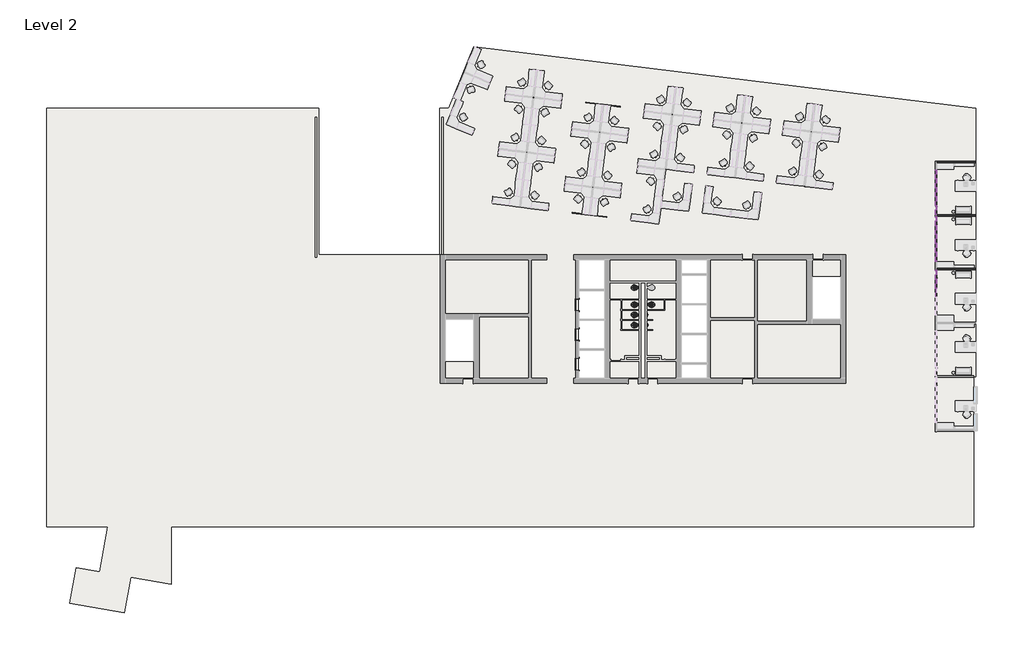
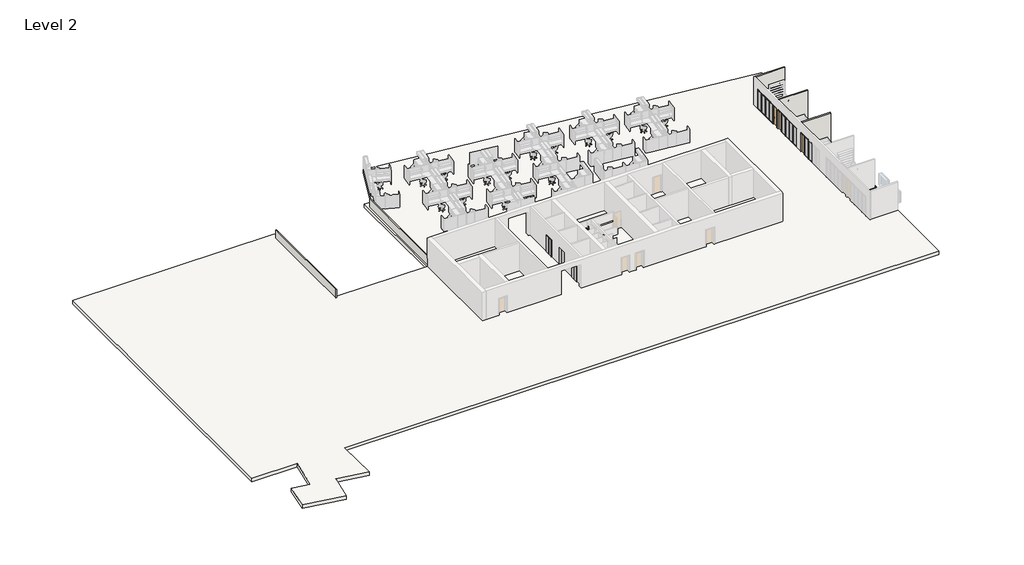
# One storey, part 3 of 6: 64 members, 23 plates, 7 flow terminals, 7 walls, 3 doors, 3 proxies, 1 slab.
"""IFC4 building model written with IfcOpenShell, lengths in millimetres."""

from ifc_helpers import new_model, si_unit, frame, origin, place, context, project, spatial, polyline, outline, extrude, transform, mapped, element, save
from components import proxy_7fed659c, curtain_wall_sgl_glass_curtain_wall_sgl_glass_683140d0, curtain_wall_sgl_glass_curtain_wall_sgl_glass_5192a5a3, flow_terminal_184afdea, flow_terminal_4365df9b, urinal_wall_3d_urinal_wall_3d_30f61b9e, member_9597caa3, member_b2bde9e6, member_ee409385, member_7ffbafd8, member_47ea2df9, member_5507c937, member_0e55f5ff, member_6d48148e, member_7899ddbe, system_panel_glazed_8093bbd9, system_panel_glazed_f9de1280, system_panel_glazed_6896c6c0, system_panel_glazed_50fd444c

model = new_model("IFC4")

# Units and contexts
model_context = context("Model", 3, world=origin())
ifc_project = project(units=[si_unit("LENGTHUNIT", "METRE", prefix="MILLI")], contexts=[model_context])

# Site, building, storey
site = spatial("IfcSite", under=ifc_project)
building = spatial("IfcBuilding", under=site)
storey = spatial("IfcBuildingStorey", under=building, Name="Level 2", Elevation=3657.6)

# Proxies
placement = place(None, origin())
proxy_shape = proxy_7fed659c(model_context)
element("IfcBuildingElementProxy", 1, Name="Elevator%20Door-Center[1] : 42\" x 84\"", ObjectType="Elevator%20Door-Center[1] : 42\" x 84\"", at=placement, inside=storey, context=model_context, shape_type="MappedRepresentation", body=[
    mapped(proxy_shape, transform((-20852.1285069, -7663.0747049, 3657.6), x_axis=(0.0, 1.0, 0.0), y_axis=(-1.0, 0.0, 0.0), z_axis=(0.0, 0.0, 1.0))),
])
element("IfcBuildingElementProxy", 2, Name="Elevator%20Door-Center[1] : 42\" x 84\"", ObjectType="Elevator%20Door-Center[1] : 42\" x 84\"", at=placement, inside=storey, context=model_context, shape_type="MappedRepresentation", body=[
    mapped(proxy_shape, transform((-20852.1285069, -10330.0747049, 3657.6), x_axis=(0.0, 1.0, 0.0), y_axis=(-1.0, 0.0, 0.0), z_axis=(0.0, 0.0, 1.0))),
])
element("IfcBuildingElementProxy", 3, Name="Elevator%20Door-Center[1] : 42\" x 84\"", ObjectType="Elevator%20Door-Center[1] : 42\" x 84\"", at=placement, inside=storey, context=model_context, shape_type="MappedRepresentation", body=[
    mapped(proxy_shape, transform((-20852.1285069, -12997.0747049, 3657.6), x_axis=(0.0, 1.0, 0.0), y_axis=(-1.0, 0.0, 0.0), z_axis=(0.0, 0.0, 1.0))),
])

# Doors
curtain_wall_sgl_glass_curtain_wall_sgl_glass_shape = curtain_wall_sgl_glass_curtain_wall_sgl_glass_683140d0(model_context)
element("IfcDoor", 4, ObjectType="Curtain Wall Sgl Glass : Curtain Wall Sgl Glass", at=placement, inside=storey, context=model_context, shape_type="MappedRepresentation", body=[
    mapped(curtain_wall_sgl_glass_curtain_wall_sgl_glass_shape, transform((11449.2054088, -211.6299475, 3657.6), x_axis=(0.0, 1.0, 0.0), y_axis=(-1.0, 0.0, 0.0), z_axis=(0.0, 0.0, 1.0))),
])
element("IfcDoor", 5, ObjectType="Curtain Wall Sgl Glass : Curtain Wall Sgl Glass", at=placement, inside=storey, context=model_context, shape_type="MappedRepresentation", body=[
    mapped(curtain_wall_sgl_glass_curtain_wall_sgl_glass_shape, transform((11449.2054088, -5046.1342481, 3657.6), x_axis=(0.0, 1.0, 0.0), y_axis=(-1.0, 0.0, 0.0), z_axis=(0.0, 0.0, 1.0))),
])
curtain_wall_sgl_glass_curtain_wall_sgl_glass_2_shape = curtain_wall_sgl_glass_curtain_wall_sgl_glass_5192a5a3(model_context)
element("IfcDoor", 6, ObjectType="Curtain Wall Sgl Glass : Curtain Wall Sgl Glass", at=placement, inside=storey, context=model_context, shape_type="MappedRepresentation", body=[
    mapped(curtain_wall_sgl_glass_curtain_wall_sgl_glass_2_shape, transform((11449.2054088, 794.2100525, 3657.6), x_axis=(0.0, -1.0, 0.0), y_axis=(1.0, 0.0, 0.0), z_axis=(0.0, 0.0, 1.0))),
])

# Flow terminals
flow_terminal_shape = flow_terminal_184afdea(model_context)
element("IfcFlowTerminal", 7, ObjectType="Toilet-Commercial-Wall-3D : 15\" Seat Height", at=placement, inside=storey, context=model_context, shape_type="MappedRepresentation", body=[
    mapped(flow_terminal_shape, transform((-14687.1856498, -7335.0821954, 3657.6), x_axis=(0.0, -1.0, 0.0), y_axis=(1.0, 0.0, 0.0), z_axis=(0.0, 0.0, 1.0))),
])
flow_terminal_2_shape = flow_terminal_4365df9b(model_context)
element("IfcFlowTerminal", 8, ObjectType="Toilet-Commercial-Wall-3D : 15\" Seat Height", at=placement, inside=storey, context=model_context, shape_type="MappedRepresentation", body=[
    mapped(flow_terminal_2_shape, transform((-15195.1856498, -9163.8821954, 3657.6), x_axis=(0.0, -1.0, 0.0), y_axis=(1.0, 0.0, 0.0), z_axis=(0.0, 0.0, 1.0))),
])
element("IfcFlowTerminal", 9, ObjectType="Toilet-Commercial-Wall-3D : 15\" Seat Height", at=placement, inside=storey, context=model_context, shape_type="MappedRepresentation", body=[
    mapped(flow_terminal_2_shape, transform((-15195.1856498, -7335.0821954, 3657.6), x_axis=(0.0, -1.0, 0.0), y_axis=(1.0, 0.0, 0.0), z_axis=(0.0, 0.0, 1.0))),
])
element("IfcFlowTerminal", 10, ObjectType="Toilet-Commercial-Wall-3D : 15\" Seat Height", at=placement, inside=storey, context=model_context, shape_type="MappedRepresentation", body=[
    mapped(flow_terminal_2_shape, transform((-15195.1856498, -5795.2071954, 3657.6), x_axis=(0.0, -1.0, 0.0), y_axis=(1.0, 0.0, 0.0), z_axis=(0.0, 0.0, 1.0))),
])
element("IfcFlowTerminal", 11, ObjectType="Toilet-Commercial-Wall-3D : 15\" Seat Height", at=placement, inside=storey, context=model_context, shape_type="MappedRepresentation", body=[
    mapped(flow_terminal_2_shape, transform((-15195.1856498, -8249.4821954, 3657.6), x_axis=(0.0, -1.0, 0.0), y_axis=(1.0, 0.0, 0.0), z_axis=(0.0, 0.0, 1.0))),
])
urinal_wall_3d_urinal_wall_3d_shape = urinal_wall_3d_urinal_wall_3d_30f61b9e(model_context)
element("IfcFlowTerminal", 12, ObjectType="Urinal-Wall-3D : Urinal-Wall-3D", at=placement, inside=storey, context=model_context, shape_type="MappedRepresentation", body=[
    mapped(urinal_wall_3d_urinal_wall_3d_shape, transform((-14687.1856498, -9677.6027747, 3048.0), x_axis=(0.0, -1.0, 0.0), y_axis=(1.0, 0.0, 0.0), z_axis=(0.0, 0.0, 1.0))),
])
element("IfcFlowTerminal", 13, ObjectType="Urinal-Wall-3D : Urinal-Wall-3D", at=placement, inside=storey, context=model_context, shape_type="MappedRepresentation", body=[
    mapped(urinal_wall_3d_urinal_wall_3d_shape, transform((-14687.1856498, -8763.2027747, 3048.0), x_axis=(0.0, -1.0, 0.0), y_axis=(1.0, 0.0, 0.0), z_axis=(0.0, 0.0, 1.0))),
])

# Members
member_shape = member_9597caa3(model_context)
element("IfcMember", 14, ObjectType="Rectangular Mullion : 2.5\" x 5\" rectangular", at=placement, inside=storey, context=model_context, shape_type="MappedRepresentation", body=[
    mapped(member_shape, transform((11449.2054088, 1195.5300525, 3721.1), x_axis=(0.0, 1.0, 0.0), y_axis=(1.0, 0.0, 0.0), z_axis=(0.0, 0.0, -1.0))),
])
element("IfcMember", 15, ObjectType="Rectangular Mullion : 2.5\" x 5\" rectangular", at=placement, inside=storey, context=model_context, shape_type="MappedRepresentation", body=[
    mapped(member_shape, transform((11449.2054088, 1998.1700525, 3721.1), x_axis=(0.0, 1.0, 0.0), y_axis=(1.0, 0.0, 0.0), z_axis=(0.0, 0.0, -1.0))),
])
element("IfcMember", 16, ObjectType="Rectangular Mullion : 2.5\" x 5\" rectangular", at=placement, inside=storey, context=model_context, shape_type="MappedRepresentation", body=[
    mapped(member_shape, transform((11449.2054088, 2800.8100525, 3721.1), x_axis=(0.0, 1.0, 0.0), y_axis=(1.0, 0.0, 0.0), z_axis=(0.0, 0.0, -1.0))),
])
element("IfcMember", 17, ObjectType="Rectangular Mullion : 2.5\" x 5\" rectangular", at=placement, inside=storey, context=model_context, shape_type="MappedRepresentation", body=[
    mapped(member_shape, transform((11449.2054088, 3603.4500525, 3721.1), x_axis=(0.0, 1.0, 0.0), y_axis=(1.0, 0.0, 0.0), z_axis=(0.0, 0.0, -1.0))),
])
member_2_shape = member_b2bde9e6(model_context)
element("IfcMember", 18, ObjectType="Rectangular Mullion : 2.5\" x 5\" rectangular", at=placement, inside=storey, context=model_context, shape_type="MappedRepresentation", body=[
    mapped(member_2_shape, transform((11449.2054088, 4437.8400525, 3721.1), x_axis=(0.0, 1.0, 0.0), y_axis=(1.0, 0.0, 0.0), z_axis=(0.0, 0.0, -1.0))),
])
element("IfcMember", 19, ObjectType="Rectangular Mullion : 2.5\" x 5\" rectangular", at=placement, inside=storey, context=model_context, shape_type="MappedRepresentation", body=[
    mapped(member_shape, transform((11449.2054088, -612.9499475, 3721.1), x_axis=(0.0, -1.0, 0.0), y_axis=(-1.0, 0.0, 0.0), z_axis=(0.0, 0.0, -1.0))),
])
element("IfcMember", 20, ObjectType="Rectangular Mullion : 2.5\" x 5\" rectangular", at=placement, inside=storey, context=model_context, shape_type="MappedRepresentation", body=[
    mapped(member_shape, transform((11449.2054088, -1415.5899475, 3721.1), x_axis=(0.0, -1.0, 0.0), y_axis=(-1.0, 0.0, 0.0), z_axis=(0.0, 0.0, -1.0))),
])
element("IfcMember", 21, ObjectType="Rectangular Mullion : 2.5\" x 5\" rectangular", at=placement, inside=storey, context=model_context, shape_type="MappedRepresentation", body=[
    mapped(member_shape, transform((11449.2054088, -2218.2299475, 3721.1), x_axis=(0.0, -1.0, 0.0), y_axis=(-1.0, 0.0, 0.0), z_axis=(0.0, 0.0, -1.0))),
])
element("IfcMember", 22, ObjectType="Rectangular Mullion : 2.5\" x 5\" rectangular", at=placement, inside=storey, context=model_context, shape_type="MappedRepresentation", body=[
    mapped(member_shape, transform((11449.2054088, -3020.8699475, 3721.1), x_axis=(0.0, -1.0, 0.0), y_axis=(-1.0, 0.0, 0.0), z_axis=(0.0, 0.0, -1.0))),
])
element("IfcMember", 23, ObjectType="Rectangular Mullion : 2.5\" x 5\" rectangular", at=placement, inside=storey, context=model_context, shape_type="MappedRepresentation", body=[
    mapped(member_shape, transform((11449.2054088, -5447.4542481, 3721.1), x_axis=(0.0, -1.0, 0.0), y_axis=(-1.0, 0.0, 0.0), z_axis=(0.0, 0.0, -1.0))),
])
element("IfcMember", 24, ObjectType="Rectangular Mullion : 2.5\" x 5\" rectangular", at=placement, inside=storey, context=model_context, shape_type="MappedRepresentation", body=[
    mapped(member_shape, transform((11449.2054088, -6250.0942481, 3721.1), x_axis=(0.0, -1.0, 0.0), y_axis=(-1.0, 0.0, 0.0), z_axis=(0.0, 0.0, -1.0))),
])
element("IfcMember", 25, ObjectType="Rectangular Mullion : 2.5\" x 5\" rectangular", at=placement, inside=storey, context=model_context, shape_type="MappedRepresentation", body=[
    mapped(member_2_shape, transform((11449.2054088, -3855.2599475, 3721.1), x_axis=(0.0, -1.0, 0.0), y_axis=(-1.0, 0.0, 0.0), z_axis=(0.0, 0.0, -1.0))),
])
member_3_shape = member_ee409385(model_context)
element("IfcMember", 26, ObjectType="Rectangular Mullion : 2.5\" x 5\" rectangular", at=placement, inside=storey, context=model_context, shape_type="MappedRepresentation", body=[
    mapped(member_3_shape, transform((11449.2054088, 361.1400525, 6096.0), x_axis=(0.0, -1.0, 0.0), y_axis=(1.0, 0.0, 0.0), z_axis=(0.0, 0.0, 1.0))),
])
member_4_shape = member_7ffbafd8(model_context)
element("IfcMember", 27, ObjectType="Rectangular Mullion : 2.5\" x 5\" rectangular", at=placement, inside=storey, context=model_context, shape_type="MappedRepresentation", body=[
    mapped(member_4_shape, transform((11449.2054088, -3855.2599475, 6197.6), x_axis=(0.0, 0.0, 1.0), y_axis=(-1.0, 0.0, 0.0), z_axis=(0.0, -1.0, 0.0))),
])
element("IfcMember", 28, ObjectType="Rectangular Mullion : 2.5\" x 5\" rectangular", at=placement, inside=storey, context=model_context, shape_type="MappedRepresentation", body=[
    mapped(member_4_shape, transform((11449.2054088, -612.9499475, 6197.6), x_axis=(0.0, 0.0, 1.0), y_axis=(-1.0, 0.0, 0.0), z_axis=(0.0, -1.0, 0.0))),
])
element("IfcMember", 29, ObjectType="Rectangular Mullion : 2.5\" x 5\" rectangular", at=placement, inside=storey, context=model_context, shape_type="MappedRepresentation", body=[
    mapped(member_4_shape, transform((11449.2054088, -5447.4542481, 6197.6), x_axis=(0.0, 0.0, 1.0), y_axis=(-1.0, 0.0, 0.0), z_axis=(0.0, -1.0, 0.0))),
])
element("IfcMember", 30, ObjectType="Rectangular Mullion : 2.5\" x 5\" rectangular", at=placement, inside=storey, context=model_context, shape_type="MappedRepresentation", body=[
    mapped(member_4_shape, transform((11449.2054088, -581.1999475, 3657.6), x_axis=(0.0, 0.0, -1.0), y_axis=(-1.0, 0.0, 0.0), z_axis=(0.0, 1.0, 0.0))),
])
element("IfcMember", 31, ObjectType="Rectangular Mullion : 2.5\" x 5\" rectangular", at=placement, inside=storey, context=model_context, shape_type="MappedRepresentation", body=[
    mapped(member_4_shape, transform((11449.2054088, -5415.7042481, 3657.6), x_axis=(0.0, 0.0, -1.0), y_axis=(-1.0, 0.0, 0.0), z_axis=(0.0, 1.0, 0.0))),
])
member_5_shape = member_47ea2df9(model_context)
element("IfcMember", 32, ObjectType="Rectangular Mullion : 2.5\" x 5\" rectangular", at=placement, inside=storey, context=model_context, shape_type="MappedRepresentation", body=[
    mapped(member_5_shape, transform((11449.2054088, -1415.5899475, 6096.0), x_axis=(0.0, 0.0, 1.0), y_axis=(-1.0, 0.0, 0.0), z_axis=(0.0, -1.0, 0.0))),
])
element("IfcMember", 33, ObjectType="Rectangular Mullion : 2.5\" x 5\" rectangular", at=placement, inside=storey, context=model_context, shape_type="MappedRepresentation", body=[
    mapped(member_5_shape, transform((11449.2054088, -2218.2299475, 6096.0), x_axis=(0.0, 0.0, 1.0), y_axis=(-1.0, 0.0, 0.0), z_axis=(0.0, -1.0, 0.0))),
])
element("IfcMember", 34, ObjectType="Rectangular Mullion : 2.5\" x 5\" rectangular", at=placement, inside=storey, context=model_context, shape_type="MappedRepresentation", body=[
    mapped(member_5_shape, transform((11449.2054088, -3020.8699475, 6096.0), x_axis=(0.0, 0.0, 1.0), y_axis=(-1.0, 0.0, 0.0), z_axis=(0.0, -1.0, 0.0))),
])
element("IfcMember", 35, ObjectType="Rectangular Mullion : 2.5\" x 5\" rectangular", at=placement, inside=storey, context=model_context, shape_type="MappedRepresentation", body=[
    mapped(member_5_shape, transform((11449.2054088, -6250.0942481, 6096.0), x_axis=(0.0, 0.0, 1.0), y_axis=(-1.0, 0.0, 0.0), z_axis=(0.0, -1.0, 0.0))),
])
member_6_shape = member_5507c937(model_context)
element("IfcMember", 36, ObjectType="Rectangular Mullion : 2.5\" x 5\" rectangular", at=placement, inside=storey, context=model_context, shape_type="MappedRepresentation", body=[
    mapped(member_6_shape, transform((11449.2054088, -1415.5899475, 6197.6), x_axis=(0.0, 0.0, 1.0), y_axis=(-1.0, 0.0, 0.0), z_axis=(0.0, -1.0, 0.0))),
])
element("IfcMember", 37, ObjectType="Rectangular Mullion : 2.5\" x 5\" rectangular", at=placement, inside=storey, context=model_context, shape_type="MappedRepresentation", body=[
    mapped(member_6_shape, transform((11449.2054088, -2218.2299475, 6197.6), x_axis=(0.0, 0.0, 1.0), y_axis=(-1.0, 0.0, 0.0), z_axis=(0.0, -1.0, 0.0))),
])
element("IfcMember", 38, ObjectType="Rectangular Mullion : 2.5\" x 5\" rectangular", at=placement, inside=storey, context=model_context, shape_type="MappedRepresentation", body=[
    mapped(member_6_shape, transform((11449.2054088, -3020.8699475, 6197.6), x_axis=(0.0, 0.0, 1.0), y_axis=(-1.0, 0.0, 0.0), z_axis=(0.0, -1.0, 0.0))),
])
element("IfcMember", 39, ObjectType="Rectangular Mullion : 2.5\" x 5\" rectangular", at=placement, inside=storey, context=model_context, shape_type="MappedRepresentation", body=[
    mapped(member_6_shape, transform((11449.2054088, -6250.0942481, 6197.6), x_axis=(0.0, 0.0, 1.0), y_axis=(-1.0, 0.0, 0.0), z_axis=(0.0, -1.0, 0.0))),
])
element("IfcMember", 40, ObjectType="Rectangular Mullion : 2.5\" x 5\" rectangular", at=placement, inside=storey, context=model_context, shape_type="MappedRepresentation", body=[
    mapped(member_6_shape, transform((11449.2054088, -1415.5899475, 3657.6), x_axis=(0.0, 0.0, -1.0), y_axis=(-1.0, 0.0, 0.0), z_axis=(0.0, 1.0, 0.0))),
])
element("IfcMember", 41, ObjectType="Rectangular Mullion : 2.5\" x 5\" rectangular", at=placement, inside=storey, context=model_context, shape_type="MappedRepresentation", body=[
    mapped(member_6_shape, transform((11449.2054088, -2218.2299475, 3657.6), x_axis=(0.0, 0.0, -1.0), y_axis=(-1.0, 0.0, 0.0), z_axis=(0.0, 1.0, 0.0))),
])
element("IfcMember", 42, ObjectType="Rectangular Mullion : 2.5\" x 5\" rectangular", at=placement, inside=storey, context=model_context, shape_type="MappedRepresentation", body=[
    mapped(member_6_shape, transform((11449.2054088, -6250.0942481, 3657.6), x_axis=(0.0, 0.0, -1.0), y_axis=(-1.0, 0.0, 0.0), z_axis=(0.0, 1.0, 0.0))),
])
element("IfcMember", 43, ObjectType="Rectangular Mullion : 2.5\" x 5\" rectangular", at=placement, inside=storey, context=model_context, shape_type="MappedRepresentation", body=[
    mapped(member_4_shape, transform((11449.2054088, -3020.8699475, 3657.6), x_axis=(0.0, 0.0, -1.0), y_axis=(-1.0, 0.0, 0.0), z_axis=(0.0, 1.0, 0.0))),
])
member_7_shape = member_0e55f5ff(model_context)
element("IfcMember", 44, ObjectType="Rectangular Mullion : 2.5\" x 5\" rectangular", at=placement, inside=storey, context=model_context, shape_type="MappedRepresentation", body=[
    mapped(member_7_shape, transform((11449.2054088, -3791.7599475, 6096.0), x_axis=(0.0, 0.0, 1.0), y_axis=(-1.0, 0.0, 0.0), z_axis=(0.0, -1.0, 0.0))),
])
element("IfcMember", 45, ObjectType="Rectangular Mullion : 2.5\" x 5\" rectangular", at=placement, inside=storey, context=model_context, shape_type="MappedRepresentation", body=[
    mapped(member_7_shape, transform((11449.2054088, -612.9499475, 6096.0), x_axis=(0.0, 0.0, 1.0), y_axis=(-1.0, 0.0, 0.0), z_axis=(0.0, -1.0, 0.0))),
])
element("IfcMember", 46, ObjectType="Rectangular Mullion : 2.5\" x 5\" rectangular", at=placement, inside=storey, context=model_context, shape_type="MappedRepresentation", body=[
    mapped(member_7_shape, transform((11449.2054088, -5447.4542481, 6096.0), x_axis=(0.0, 0.0, 1.0), y_axis=(-1.0, 0.0, 0.0), z_axis=(0.0, -1.0, 0.0))),
])
element("IfcMember", 47, ObjectType="Rectangular Mullion : 2.5\" x 5\" rectangular", at=placement, inside=storey, context=model_context, shape_type="MappedRepresentation", body=[
    mapped(member_3_shape, transform((11449.2054088, 221.4400525, 6096.0), x_axis=(0.0, 1.0, 0.0), y_axis=(-1.0, 0.0, 0.0), z_axis=(0.0, 0.0, 1.0))),
])
element("IfcMember", 48, ObjectType="Rectangular Mullion : 2.5\" x 5\" rectangular", at=placement, inside=storey, context=model_context, shape_type="MappedRepresentation", body=[
    mapped(member_3_shape, transform((11449.2054088, -4613.0642481, 6096.0), x_axis=(0.0, 1.0, 0.0), y_axis=(-1.0, 0.0, 0.0), z_axis=(0.0, 0.0, 1.0))),
])
element("IfcMember", 49, ObjectType="Rectangular Mullion : 2.5\" x 5\" rectangular", at=placement, inside=storey, context=model_context, shape_type="MappedRepresentation", body=[
    mapped(member_4_shape, transform((11449.2054088, 4437.8400525, 6197.6), x_axis=(0.0, 0.0, 1.0), y_axis=(1.0, 0.0, 0.0), z_axis=(0.0, 1.0, 0.0))),
])
element("IfcMember", 50, ObjectType="Rectangular Mullion : 2.5\" x 5\" rectangular", at=placement, inside=storey, context=model_context, shape_type="MappedRepresentation", body=[
    mapped(member_4_shape, transform((11449.2054088, 1195.5300525, 6197.6), x_axis=(0.0, 0.0, 1.0), y_axis=(1.0, 0.0, 0.0), z_axis=(0.0, 1.0, 0.0))),
])
element("IfcMember", 51, ObjectType="Rectangular Mullion : 2.5\" x 5\" rectangular", at=placement, inside=storey, context=model_context, shape_type="MappedRepresentation", body=[
    mapped(member_4_shape, transform((11449.2054088, 1163.7800525, 3657.6), x_axis=(0.0, 0.0, -1.0), y_axis=(1.0, 0.0, 0.0), z_axis=(0.0, -1.0, 0.0))),
])
element("IfcMember", 52, ObjectType="Rectangular Mullion : 2.5\" x 5\" rectangular", at=placement, inside=storey, context=model_context, shape_type="MappedRepresentation", body=[
    mapped(member_5_shape, transform((11449.2054088, 1998.1700525, 6096.0), x_axis=(0.0, 0.0, 1.0), y_axis=(1.0, 0.0, 0.0), z_axis=(0.0, 1.0, 0.0))),
])
element("IfcMember", 53, ObjectType="Rectangular Mullion : 2.5\" x 5\" rectangular", at=placement, inside=storey, context=model_context, shape_type="MappedRepresentation", body=[
    mapped(member_5_shape, transform((11449.2054088, 2800.8100525, 6096.0), x_axis=(0.0, 0.0, 1.0), y_axis=(1.0, 0.0, 0.0), z_axis=(0.0, 1.0, 0.0))),
])
element("IfcMember", 54, ObjectType="Rectangular Mullion : 2.5\" x 5\" rectangular", at=placement, inside=storey, context=model_context, shape_type="MappedRepresentation", body=[
    mapped(member_5_shape, transform((11449.2054088, 3603.4500525, 6096.0), x_axis=(0.0, 0.0, 1.0), y_axis=(1.0, 0.0, 0.0), z_axis=(0.0, 1.0, 0.0))),
])
element("IfcMember", 55, ObjectType="Rectangular Mullion : 2.5\" x 5\" rectangular", at=placement, inside=storey, context=model_context, shape_type="MappedRepresentation", body=[
    mapped(member_6_shape, transform((11449.2054088, 1998.1700525, 6197.6), x_axis=(0.0, 0.0, 1.0), y_axis=(1.0, 0.0, 0.0), z_axis=(0.0, 1.0, 0.0))),
])
element("IfcMember", 56, ObjectType="Rectangular Mullion : 2.5\" x 5\" rectangular", at=placement, inside=storey, context=model_context, shape_type="MappedRepresentation", body=[
    mapped(member_6_shape, transform((11449.2054088, 2800.8100525, 6197.6), x_axis=(0.0, 0.0, 1.0), y_axis=(1.0, 0.0, 0.0), z_axis=(0.0, 1.0, 0.0))),
])
element("IfcMember", 57, ObjectType="Rectangular Mullion : 2.5\" x 5\" rectangular", at=placement, inside=storey, context=model_context, shape_type="MappedRepresentation", body=[
    mapped(member_6_shape, transform((11449.2054088, 3603.4500525, 6197.6), x_axis=(0.0, 0.0, 1.0), y_axis=(1.0, 0.0, 0.0), z_axis=(0.0, 1.0, 0.0))),
])
element("IfcMember", 58, ObjectType="Rectangular Mullion : 2.5\" x 5\" rectangular", at=placement, inside=storey, context=model_context, shape_type="MappedRepresentation", body=[
    mapped(member_6_shape, transform((11449.2054088, 1998.1700525, 3657.6), x_axis=(0.0, 0.0, -1.0), y_axis=(1.0, 0.0, 0.0), z_axis=(0.0, -1.0, 0.0))),
])
element("IfcMember", 59, ObjectType="Rectangular Mullion : 2.5\" x 5\" rectangular", at=placement, inside=storey, context=model_context, shape_type="MappedRepresentation", body=[
    mapped(member_6_shape, transform((11449.2054088, 2800.8100525, 3657.6), x_axis=(0.0, 0.0, -1.0), y_axis=(1.0, 0.0, 0.0), z_axis=(0.0, -1.0, 0.0))),
])
element("IfcMember", 60, ObjectType="Rectangular Mullion : 2.5\" x 5\" rectangular", at=placement, inside=storey, context=model_context, shape_type="MappedRepresentation", body=[
    mapped(member_4_shape, transform((11449.2054088, 3603.4500525, 3657.6), x_axis=(0.0, 0.0, -1.0), y_axis=(1.0, 0.0, 0.0), z_axis=(0.0, -1.0, 0.0))),
])
element("IfcMember", 61, ObjectType="Rectangular Mullion : 2.5\" x 5\" rectangular", at=placement, inside=storey, context=model_context, shape_type="MappedRepresentation", body=[
    mapped(member_7_shape, transform((11449.2054088, 4374.3400525, 6096.0), x_axis=(0.0, 0.0, 1.0), y_axis=(1.0, 0.0, 0.0), z_axis=(0.0, 1.0, 0.0))),
])
element("IfcMember", 62, ObjectType="Rectangular Mullion : 2.5\" x 5\" rectangular", at=placement, inside=storey, context=model_context, shape_type="MappedRepresentation", body=[
    mapped(member_7_shape, transform((11449.2054088, 1195.5300525, 6096.0), x_axis=(0.0, 0.0, 1.0), y_axis=(1.0, 0.0, 0.0), z_axis=(0.0, 1.0, 0.0))),
])
member_8_shape = member_6d48148e(model_context)
element("IfcMember", 63, ObjectType="Rectangular Mullion : 2.5\" x 5\" rectangular", at=placement, inside=storey, context=model_context, shape_type="MappedRepresentation", body=[
    mapped(member_8_shape, transform((11449.2054088, 1195.5300525, 6127.75), x_axis=(0.0, 1.0, 0.0), y_axis=(1.0, 0.0, 0.0), z_axis=(0.0, 0.0, -1.0))),
])
element("IfcMember", 64, ObjectType="Rectangular Mullion : 2.5\" x 5\" rectangular", at=placement, inside=storey, context=model_context, shape_type="MappedRepresentation", body=[
    mapped(member_8_shape, transform((11449.2054088, 1998.1700525, 6127.75), x_axis=(0.0, 1.0, 0.0), y_axis=(1.0, 0.0, 0.0), z_axis=(0.0, 0.0, -1.0))),
])
element("IfcMember", 65, ObjectType="Rectangular Mullion : 2.5\" x 5\" rectangular", at=placement, inside=storey, context=model_context, shape_type="MappedRepresentation", body=[
    mapped(member_8_shape, transform((11449.2054088, 2800.8100525, 6127.75), x_axis=(0.0, 1.0, 0.0), y_axis=(1.0, 0.0, 0.0), z_axis=(0.0, 0.0, -1.0))),
])
element("IfcMember", 66, ObjectType="Rectangular Mullion : 2.5\" x 5\" rectangular", at=placement, inside=storey, context=model_context, shape_type="MappedRepresentation", body=[
    mapped(member_8_shape, transform((11449.2054088, 3603.4500525, 6127.75), x_axis=(0.0, 1.0, 0.0), y_axis=(1.0, 0.0, 0.0), z_axis=(0.0, 0.0, -1.0))),
])
member_9_shape = member_7899ddbe(model_context)
element("IfcMember", 67, ObjectType="Rectangular Mullion : 2.5\" x 5\" rectangular", at=placement, inside=storey, context=model_context, shape_type="MappedRepresentation", body=[
    mapped(member_9_shape, transform((11449.2054088, 4437.8400525, 6096.0), x_axis=(0.0, 1.0, 0.0), y_axis=(1.0, 0.0, 0.0), z_axis=(0.0, 0.0, -1.0))),
])
element("IfcMember", 68, ObjectType="Rectangular Mullion : 2.5\" x 5\" rectangular", at=placement, inside=storey, context=model_context, shape_type="MappedRepresentation", body=[
    mapped(member_9_shape, transform((11449.2054088, 361.1400525, 6134.1), x_axis=(0.0, -1.0, 0.0), y_axis=(1.0, 0.0, 0.0), z_axis=(0.0, 0.0, 1.0))),
])
element("IfcMember", 69, ObjectType="Rectangular Mullion : 2.5\" x 5\" rectangular", at=placement, inside=storey, context=model_context, shape_type="MappedRepresentation", body=[
    mapped(member_8_shape, transform((11449.2054088, -612.9499475, 6127.75), x_axis=(0.0, -1.0, 0.0), y_axis=(-1.0, 0.0, 0.0), z_axis=(0.0, 0.0, -1.0))),
])
element("IfcMember", 70, ObjectType="Rectangular Mullion : 2.5\" x 5\" rectangular", at=placement, inside=storey, context=model_context, shape_type="MappedRepresentation", body=[
    mapped(member_8_shape, transform((11449.2054088, -1415.5899475, 6127.75), x_axis=(0.0, -1.0, 0.0), y_axis=(-1.0, 0.0, 0.0), z_axis=(0.0, 0.0, -1.0))),
])
element("IfcMember", 71, ObjectType="Rectangular Mullion : 2.5\" x 5\" rectangular", at=placement, inside=storey, context=model_context, shape_type="MappedRepresentation", body=[
    mapped(member_8_shape, transform((11449.2054088, -2218.2299475, 6127.75), x_axis=(0.0, -1.0, 0.0), y_axis=(-1.0, 0.0, 0.0), z_axis=(0.0, 0.0, -1.0))),
])
element("IfcMember", 72, ObjectType="Rectangular Mullion : 2.5\" x 5\" rectangular", at=placement, inside=storey, context=model_context, shape_type="MappedRepresentation", body=[
    mapped(member_8_shape, transform((11449.2054088, -3020.8699475, 6127.75), x_axis=(0.0, -1.0, 0.0), y_axis=(-1.0, 0.0, 0.0), z_axis=(0.0, 0.0, -1.0))),
])
element("IfcMember", 73, ObjectType="Rectangular Mullion : 2.5\" x 5\" rectangular", at=placement, inside=storey, context=model_context, shape_type="MappedRepresentation", body=[
    mapped(member_8_shape, transform((11449.2054088, -5447.4542481, 6127.75), x_axis=(0.0, -1.0, 0.0), y_axis=(-1.0, 0.0, 0.0), z_axis=(0.0, 0.0, -1.0))),
])
element("IfcMember", 74, ObjectType="Rectangular Mullion : 2.5\" x 5\" rectangular", at=placement, inside=storey, context=model_context, shape_type="MappedRepresentation", body=[
    mapped(member_8_shape, transform((11449.2054088, -6250.0942481, 6127.75), x_axis=(0.0, -1.0, 0.0), y_axis=(-1.0, 0.0, 0.0), z_axis=(0.0, 0.0, -1.0))),
])
element("IfcMember", 75, ObjectType="Rectangular Mullion : 2.5\" x 5\" rectangular", at=placement, inside=storey, context=model_context, shape_type="MappedRepresentation", body=[
    mapped(member_9_shape, transform((11449.2054088, -3855.2599475, 6096.0), x_axis=(0.0, -1.0, 0.0), y_axis=(-1.0, 0.0, 0.0), z_axis=(0.0, 0.0, -1.0))),
])
element("IfcMember", 76, ObjectType="Rectangular Mullion : 2.5\" x 5\" rectangular", at=placement, inside=storey, context=model_context, shape_type="MappedRepresentation", body=[
    mapped(member_9_shape, transform((11449.2054088, 221.4400525, 6134.1), x_axis=(0.0, 1.0, 0.0), y_axis=(-1.0, 0.0, 0.0), z_axis=(0.0, 0.0, 1.0))),
])
element("IfcMember", 77, ObjectType="Rectangular Mullion : 2.5\" x 5\" rectangular", at=placement, inside=storey, context=model_context, shape_type="MappedRepresentation", body=[
    mapped(member_9_shape, transform((11449.2054088, -4613.0642481, 6134.1), x_axis=(0.0, 1.0, 0.0), y_axis=(-1.0, 0.0, 0.0), z_axis=(0.0, 0.0, 1.0))),
])

# Plates
system_panel_glazed_shape = system_panel_glazed_8093bbd9(model_context)
element("IfcPlate", 78, ObjectType="System Panel : Glazed", at=placement, inside=storey, context=model_context, shape_type="MappedRepresentation", body=[
    mapped(system_panel_glazed_shape, transform((11449.2054088, -1014.2699475, 3721.1), x_axis=(0.0, -1.0, 0.0), y_axis=(1.0, 0.0, 0.0), z_axis=(0.0, 0.0, 1.0))),
])
element("IfcPlate", 79, ObjectType="System Panel : Glazed", at=placement, inside=storey, context=model_context, shape_type="MappedRepresentation", body=[
    mapped(system_panel_glazed_shape, transform((11449.2054088, -1816.9099475, 3721.1), x_axis=(0.0, -1.0, 0.0), y_axis=(1.0, 0.0, 0.0), z_axis=(0.0, 0.0, 1.0))),
])
element("IfcPlate", 80, ObjectType="System Panel : Glazed", at=placement, inside=storey, context=model_context, shape_type="MappedRepresentation", body=[
    mapped(system_panel_glazed_shape, transform((11449.2054088, -2619.5499475, 3721.1), x_axis=(0.0, -1.0, 0.0), y_axis=(1.0, 0.0, 0.0), z_axis=(0.0, 0.0, 1.0))),
])
element("IfcPlate", 81, ObjectType="System Panel : Glazed", at=placement, inside=storey, context=model_context, shape_type="MappedRepresentation", body=[
    mapped(system_panel_glazed_shape, transform((11449.2054088, -3422.1899475, 3721.1), x_axis=(0.0, -1.0, 0.0), y_axis=(1.0, 0.0, 0.0), z_axis=(0.0, 0.0, 1.0))),
])
element("IfcPlate", 82, ObjectType="System Panel : Glazed", at=placement, inside=storey, context=model_context, shape_type="MappedRepresentation", body=[
    mapped(system_panel_glazed_shape, transform((11449.2054088, -5848.7742481, 3721.1), x_axis=(0.0, -1.0, 0.0), y_axis=(1.0, 0.0, 0.0), z_axis=(0.0, 0.0, 1.0))),
])
element("IfcPlate", 83, ObjectType="System Panel : Glazed", at=placement, inside=storey, context=model_context, shape_type="MappedRepresentation", body=[
    mapped(system_panel_glazed_shape, transform((11449.2054088, -6651.4142481, 3721.1), x_axis=(0.0, -1.0, 0.0), y_axis=(1.0, 0.0, 0.0), z_axis=(0.0, 0.0, 1.0))),
])
system_panel_glazed_2_shape = system_panel_glazed_f9de1280(model_context)
element("IfcPlate", 84, ObjectType="System Panel : Glazed", at=placement, inside=storey, context=model_context, shape_type="MappedRepresentation", body=[
    mapped(system_panel_glazed_2_shape, transform((11449.2054088, 1596.8500525, 3721.1), x_axis=(0.0, 1.0, 0.0), y_axis=(-1.0, 0.0, 0.0), z_axis=(0.0, 0.0, 1.0))),
])
element("IfcPlate", 85, ObjectType="System Panel : Glazed", at=placement, inside=storey, context=model_context, shape_type="MappedRepresentation", body=[
    mapped(system_panel_glazed_2_shape, transform((11449.2054088, 2399.4900525, 3721.1), x_axis=(0.0, 1.0, 0.0), y_axis=(-1.0, 0.0, 0.0), z_axis=(0.0, 0.0, 1.0))),
])
element("IfcPlate", 86, ObjectType="System Panel : Glazed", at=placement, inside=storey, context=model_context, shape_type="MappedRepresentation", body=[
    mapped(system_panel_glazed_2_shape, transform((11449.2054088, 3202.1300525, 3721.1), x_axis=(0.0, 1.0, 0.0), y_axis=(-1.0, 0.0, 0.0), z_axis=(0.0, 0.0, 1.0))),
])
element("IfcPlate", 87, ObjectType="System Panel : Glazed", at=placement, inside=storey, context=model_context, shape_type="MappedRepresentation", body=[
    mapped(system_panel_glazed_2_shape, transform((11449.2054088, 4004.7700525, 3721.1), x_axis=(0.0, 1.0, 0.0), y_axis=(-1.0, 0.0, 0.0), z_axis=(0.0, 0.0, 1.0))),
])
system_panel_glazed_3_shape = system_panel_glazed_6896c6c0(model_context)
element("IfcPlate", 88, ObjectType="System Panel : Glazed", at=placement, inside=storey, context=model_context, shape_type="MappedRepresentation", body=[
    mapped(system_panel_glazed_3_shape, transform((11449.2054088, 794.2100525, 6127.75), x_axis=(0.0, 1.0, 0.0), y_axis=(-1.0, 0.0, 0.0), z_axis=(0.0, 0.0, 1.0))),
])
element("IfcPlate", 89, ObjectType="System Panel : Glazed", at=placement, inside=storey, context=model_context, shape_type="MappedRepresentation", body=[
    mapped(system_panel_glazed_3_shape, transform((11449.2054088, 1596.8500525, 6127.75), x_axis=(0.0, 1.0, 0.0), y_axis=(-1.0, 0.0, 0.0), z_axis=(0.0, 0.0, 1.0))),
])
element("IfcPlate", 90, ObjectType="System Panel : Glazed", at=placement, inside=storey, context=model_context, shape_type="MappedRepresentation", body=[
    mapped(system_panel_glazed_3_shape, transform((11449.2054088, 2399.4900525, 6127.75), x_axis=(0.0, 1.0, 0.0), y_axis=(-1.0, 0.0, 0.0), z_axis=(0.0, 0.0, 1.0))),
])
element("IfcPlate", 91, ObjectType="System Panel : Glazed", at=placement, inside=storey, context=model_context, shape_type="MappedRepresentation", body=[
    mapped(system_panel_glazed_3_shape, transform((11449.2054088, 3202.1300525, 6127.75), x_axis=(0.0, 1.0, 0.0), y_axis=(-1.0, 0.0, 0.0), z_axis=(0.0, 0.0, 1.0))),
])
element("IfcPlate", 92, ObjectType="System Panel : Glazed", at=placement, inside=storey, context=model_context, shape_type="MappedRepresentation", body=[
    mapped(system_panel_glazed_3_shape, transform((11449.2054088, 4004.7700525, 6127.75), x_axis=(0.0, 1.0, 0.0), y_axis=(-1.0, 0.0, 0.0), z_axis=(0.0, 0.0, 1.0))),
])
system_panel_glazed_4_shape = system_panel_glazed_50fd444c(model_context)
element("IfcPlate", 93, ObjectType="System Panel : Glazed", at=placement, inside=storey, context=model_context, shape_type="MappedRepresentation", body=[
    mapped(system_panel_glazed_4_shape, transform((11449.2054088, -211.6299475, 6127.75), x_axis=(0.0, -1.0, 0.0), y_axis=(1.0, 0.0, 0.0), z_axis=(0.0, 0.0, 1.0))),
])
element("IfcPlate", 94, ObjectType="System Panel : Glazed", at=placement, inside=storey, context=model_context, shape_type="MappedRepresentation", body=[
    mapped(system_panel_glazed_4_shape, transform((11449.2054088, -1014.2699475, 6127.75), x_axis=(0.0, -1.0, 0.0), y_axis=(1.0, 0.0, 0.0), z_axis=(0.0, 0.0, 1.0))),
])
element("IfcPlate", 95, ObjectType="System Panel : Glazed", at=placement, inside=storey, context=model_context, shape_type="MappedRepresentation", body=[
    mapped(system_panel_glazed_4_shape, transform((11449.2054088, -1816.9099475, 6127.75), x_axis=(0.0, -1.0, 0.0), y_axis=(1.0, 0.0, 0.0), z_axis=(0.0, 0.0, 1.0))),
])
element("IfcPlate", 96, ObjectType="System Panel : Glazed", at=placement, inside=storey, context=model_context, shape_type="MappedRepresentation", body=[
    mapped(system_panel_glazed_4_shape, transform((11449.2054088, -2619.5499475, 6127.75), x_axis=(0.0, -1.0, 0.0), y_axis=(1.0, 0.0, 0.0), z_axis=(0.0, 0.0, 1.0))),
])
element("IfcPlate", 97, ObjectType="System Panel : Glazed", at=placement, inside=storey, context=model_context, shape_type="MappedRepresentation", body=[
    mapped(system_panel_glazed_4_shape, transform((11449.2054088, -3422.1899475, 6127.75), x_axis=(0.0, -1.0, 0.0), y_axis=(1.0, 0.0, 0.0), z_axis=(0.0, 0.0, 1.0))),
])
element("IfcPlate", 98, ObjectType="System Panel : Glazed", at=placement, inside=storey, context=model_context, shape_type="MappedRepresentation", body=[
    mapped(system_panel_glazed_4_shape, transform((11449.2054088, -5046.1342481, 6127.75), x_axis=(0.0, -1.0, 0.0), y_axis=(1.0, 0.0, 0.0), z_axis=(0.0, 0.0, 1.0))),
])
element("IfcPlate", 99, ObjectType="System Panel : Glazed", at=placement, inside=storey, context=model_context, shape_type="MappedRepresentation", body=[
    mapped(system_panel_glazed_4_shape, transform((11449.2054088, -5848.7742481, 6127.75), x_axis=(0.0, -1.0, 0.0), y_axis=(1.0, 0.0, 0.0), z_axis=(0.0, 0.0, 1.0))),
])
element("IfcPlate", 100, ObjectType="System Panel : Glazed", at=placement, inside=storey, context=model_context, shape_type="MappedRepresentation", body=[
    mapped(system_panel_glazed_4_shape, transform((11449.2054088, -6651.4142481, 6127.75), x_axis=(0.0, -1.0, 0.0), y_axis=(1.0, 0.0, 0.0), z_axis=(0.0, 0.0, 1.0))),
])

# Slab
element("IfcSlab", 101, ObjectType="Steel Bar Joist 14\" - Concrete", at=placement, inside=storey, context=model_context, shape_type="SweptSolid", body=[
    extrude(outline(polyline([(-68660.7599961, -27742.4853492), (-68660.7599961, 9954.2896508), (-44161.1642212, 9954.2896508), (-44161.1642212, -3241.0103492), (-33226.4642212, -3241.0103492), (-33226.4642212, 9954.2896508), (-32421.4843139, 9954.2896508), (-30175.817983, 15512.5088637), (15043.3054088, 9960.2986536), (15043.3054088, -14218.4266737), (14830.5804088, -14218.4266737), (14830.5804088, -27735.220667), (-57415.8125003, -27735.220667), (-57415.8125003, -32919.911766), (-61087.9334678, -32272.417763), (-61658.0117526, -35505.4923758), (-66551.3983764, -34642.656287), (-65981.3200915, -31409.5816742), (-63880.1342697, -31780.0774261), (-63168.1978494, -27742.4853492), (-68660.7599961, -27742.4853492)]), holes=[polyline([(-32750.2142212, -9032.2103492), (-32750.2142212, -12842.2103492), (-30166.6713641, -12842.2103492), (-30166.6713641, -9032.2103492), (-32750.2142212, -9032.2103492)]), polyline([(-20725.1285069, -3698.2103492), (-20725.1285069, -14366.2103492), (-18385.1284437, -14366.2103492), (-18385.1284437, -3698.2103492), (-20725.1285069, -3698.2103492)]), polyline([(-9157.2427926, -3698.2103492), (-11497.2428559, -3698.2103492), (-11497.2428559, -14366.2103492), (-9157.2427926, -14366.2103492), (-9157.2427926, -3698.2103492)]), polyline([(2867.8429217, -9032.2103492), (2867.8429217, -5222.2103492), (284.3000645, -5222.2103492), (284.3000645, -9032.2103492), (2867.8429217, -9032.2103492)])]), frame((0.0, 0.0, 3222.625), z_axis=(0.0, 0.0, 1.0), x_axis=(1.0, 0.0, 0.0)), (0.0, 0.0, 1.0), 434.975),
])

# Walls
element("IfcWall", 102, ObjectType="Generic - 5\"", at=placement, inside=storey, context=model_context, shape_type="SweptSolid", body=[
    extrude(outline(polyline([(-33055.0142212, -3475.9603492), (-33055.0142212, 9154.1896508), (-32928.0142212, 9154.1896508), (-32928.0142212, -3475.9603492), (-33055.0142212, -3475.9603492)])), frame((0.0, 0.0, 3657.6), z_axis=(0.0, 0.0, 1.0), x_axis=(1.0, 0.0, 0.0)), (0.0, 0.0, 1.0), 1066.8),
])
element("IfcWall", 103, ObjectType="Generic - 5\"", at=placement, inside=storey, context=model_context, shape_type="SweptSolid", body=[
    extrude(outline(polyline([(-44332.6142212, 9154.1896508), (-44332.6142212, -3475.9603492), (-44459.6142212, -3475.9603492), (-44459.6142212, 9154.1896508), (-44332.6142212, 9154.1896508)])), frame((0.0, 0.0, 3657.6), z_axis=(0.0, 0.0, 1.0), x_axis=(1.0, 0.0, 0.0)), (0.0, 0.0, 1.0), 1066.8),
])
element("IfcWall", 104, ObjectType="Interior - 5 1/2\" Partition (1-hr)", at=placement, inside=storey, context=model_context, shape_type="SweptSolid", body=[
    extrude(outline(polyline([(11519.0554088, 5195.6443531), (15043.3054088, 5195.6443531), (15043.3054088, 5055.9443531), (11519.0554088, 5055.9443531), (11519.0554088, 5195.6443531)])), frame((0.0, 0.0, 3657.6), z_axis=(0.0, 0.0, 1.0), x_axis=(1.0, 0.0, 0.0)), (0.0, 0.0, 1.0), 3657.6),
])
element("IfcWall", 105, ObjectType="Interior - 5 1/2\" Partition (1-hr)", at=placement, inside=storey, context=model_context, shape_type="SweptSolid", body=[
    extrude(outline(polyline([(11519.0554088, 361.1400525), (15043.3054088, 361.1400525), (15043.3054088, 221.4400525), (11519.0554088, 221.4400525), (11519.0554088, 361.1400525)])), frame((0.0, 0.0, 3657.6), z_axis=(0.0, 0.0, 1.0), x_axis=(1.0, 0.0, 0.0)), (0.0, 0.0, 1.0), 3657.6),
])
element("IfcWall", 106, ObjectType="Interior - 5 1/2\" Partition (1-hr)", at=placement, inside=storey, context=model_context, shape_type="SweptSolid", body=[
    extrude(outline(polyline([(11519.0554088, -4473.3642481), (15043.3054088, -4473.3642481), (15043.3054088, -4613.0642481), (11519.0554088, -4613.0642481), (11519.0554088, -4473.3642481)])), frame((0.0, 0.0, 3657.6), z_axis=(0.0, 0.0, 1.0), x_axis=(1.0, 0.0, 0.0)), (0.0, 0.0, 1.0), 3657.6),
])
element("IfcWall", 107, ObjectType="Interior - 5 1/2\" Partition (1-hr)", at=placement, inside=storey, context=model_context, shape_type="SweptSolid", body=[
    extrude(outline(polyline([(11519.0554088, -4473.3642481), (15043.3054088, -4473.3642481), (15043.3054088, -4613.0642481), (11519.0554088, -4613.0642481), (11519.0554088, -4473.3642481)])), frame((0.0, 0.0, 3657.6), z_axis=(0.0, 0.0, 1.0), x_axis=(1.0, 0.0, 0.0)), (0.0, 0.0, 1.0), 3657.6),
])
element("IfcWall", 108, ObjectType="Interior - 5 1/2\" Partition (1-hr)", at=placement, inside=storey, context=model_context, shape_type="SweptSolid", body=[
    extrude(outline(polyline([(11519.0554088, 361.1400525), (15043.3054088, 361.1400525), (15043.3054088, 221.4400525), (11519.0554088, 221.4400525), (11519.0554088, 361.1400525)])), frame((0.0, 0.0, 3657.6), z_axis=(0.0, 0.0, 1.0), x_axis=(1.0, 0.0, 0.0)), (0.0, 0.0, 1.0), 3657.6),
])

save(model, "model.ifc")
